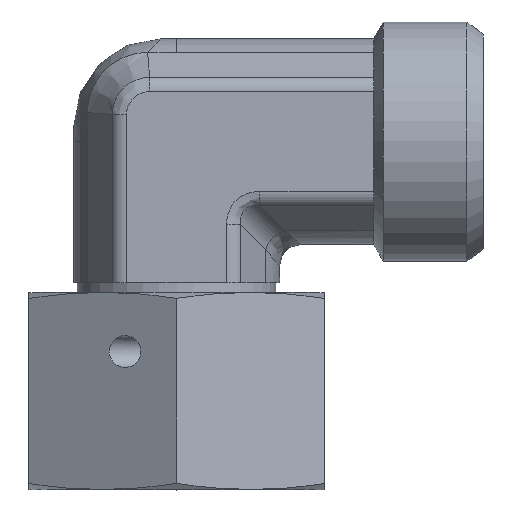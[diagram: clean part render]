
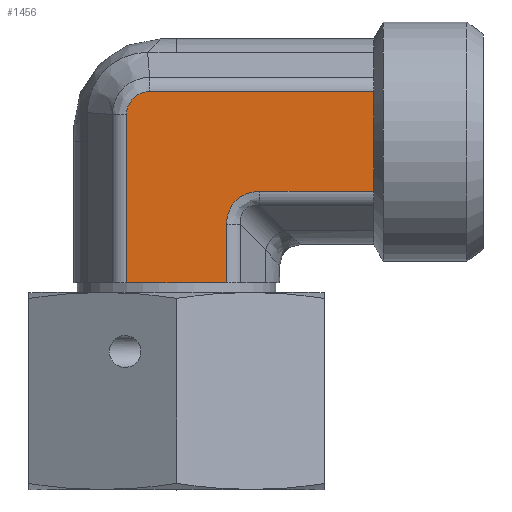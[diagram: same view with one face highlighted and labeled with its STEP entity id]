
A CAD part, top view. The second image highlights one B-rep face of the part: STEP entity #1456.
In plain terms, the highlighted planar face has unit normal (0, 0, 1) as drawn and (0, -1, 0) by its records, which use the part's own axes.
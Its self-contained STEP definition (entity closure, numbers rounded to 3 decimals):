
#83=ELLIPSE('',#1620,4.518,3.5);
#90=LINE('',#2354,#146);
#107=LINE('',#2412,#163);
#110=LINE('',#2423,#166);
#117=LINE('',#2548,#173);
#118=LINE('',#2623,#174);
#124=LINE('',#2689,#180);
#127=LINE('',#2740,#183);
#146=VECTOR('',#1852,9.122);
#163=VECTOR('',#1901,4.561);
#166=VECTOR('',#1914,4.561);
#173=VECTOR('',#1945,20.461);
#174=VECTOR('',#1950,15.361);
#180=VECTOR('',#1960,10.408);
#183=VECTOR('',#1973,5.308);
#213=PLANE('',#1622);
#366=FACE_OUTER_BOUND('',#502,.T.);
#502=EDGE_LOOP('',(#1178,#1179,#1180,#1181,#1182,#1183,#1184,#1185,#1186));
#573=B_SPLINE_CURVE_WITH_KNOTS('',3,(#2602,#2603,#2604,#2605,#2606,#2607,
#2608,#2609,#2610,#2611),.UNSPECIFIED.,.F.,.F.,(4,2,2,2,4),(-3.281,
-2.117,-1.066,-0.41,0.),
 .UNSPECIFIED.);
#699=VERTEX_POINT('',#2289);
#718=VERTEX_POINT('',#2351);
#719=VERTEX_POINT('',#2353);
#734=VERTEX_POINT('',#2410);
#737=VERTEX_POINT('',#2422);
#743=VERTEX_POINT('',#2546);
#745=VERTEX_POINT('',#2600);
#749=VERTEX_POINT('',#2688);
#751=VERTEX_POINT('',#2733);
#847=EDGE_CURVE('',#719,#718,#90,.T.);
#871=EDGE_CURVE('',#699,#734,#107,.T.);
#876=EDGE_CURVE('',#737,#699,#110,.T.);
#890=EDGE_CURVE('',#743,#734,#117,.T.);
#892=EDGE_CURVE('',#745,#743,#573,.T.);
#894=EDGE_CURVE('',#719,#745,#118,.T.);
#901=EDGE_CURVE('',#737,#749,#124,.T.);
#906=EDGE_CURVE('',#749,#751,#83,.T.);
#908=EDGE_CURVE('',#751,#718,#127,.T.);
#1178=ORIENTED_EDGE('',*,*,#847,.T.);
#1179=ORIENTED_EDGE('',*,*,#908,.F.);
#1180=ORIENTED_EDGE('',*,*,#906,.F.);
#1181=ORIENTED_EDGE('',*,*,#901,.F.);
#1182=ORIENTED_EDGE('',*,*,#876,.T.);
#1183=ORIENTED_EDGE('',*,*,#871,.T.);
#1184=ORIENTED_EDGE('',*,*,#890,.F.);
#1185=ORIENTED_EDGE('',*,*,#892,.F.);
#1186=ORIENTED_EDGE('',*,*,#894,.F.);
#1456=ADVANCED_FACE('',(#366),#213,.T.);
#1620=AXIS2_PLACEMENT_3D('',#2737,#1968,#1969);
#1622=AXIS2_PLACEMENT_3D('',#2741,#1974,#1975);
#1852=DIRECTION('',(0.,0.,1.));
#1901=DIRECTION('',(-1.,0.,0.));
#1914=DIRECTION('',(-1.,0.,0.));
#1945=DIRECTION('',(0.,0.,1.));
#1950=DIRECTION('',(-1.,0.,0.));
#1960=DIRECTION('',(0.,0.,-1.));
#1968=DIRECTION('center_axis',(0.,-1.,0.));
#1969=DIRECTION('ref_axis',(-0.707,0.,-0.707));
#1973=DIRECTION('',(1.,0.,0.));
#1974=DIRECTION('center_axis',(0.,-1.,0.));
#1975=DIRECTION('ref_axis',(0.,0.,-1.));
#2289=CARTESIAN_POINT('',(-4.5,-9.4,18.));
#2351=CARTESIAN_POINT('',(8.4,-9.4,4.561));
#2353=CARTESIAN_POINT('',(8.4,-9.4,-4.561));
#2354=CARTESIAN_POINT('',(8.4,-9.4,-4.561));
#2410=CARTESIAN_POINT('',(-9.061,-9.4,18.));
#2412=CARTESIAN_POINT('',(-4.5,-9.4,18.));
#2422=CARTESIAN_POINT('',(0.061,-9.4,18.));
#2423=CARTESIAN_POINT('',(0.061,-9.4,18.));
#2546=CARTESIAN_POINT('',(-9.061,-9.4,-2.461));
#2548=CARTESIAN_POINT('',(-9.061,-9.4,-2.461));
#2600=CARTESIAN_POINT('',(-6.961,-9.4,-4.561));
#2602=CARTESIAN_POINT('Ctrl Pts',(-6.961,-9.4,-4.561));
#2603=CARTESIAN_POINT('Ctrl Pts',(-7.349,-9.4,-4.561));
#2604=CARTESIAN_POINT('Ctrl Pts',(-7.737,-9.4,-4.451));
#2605=CARTESIAN_POINT('Ctrl Pts',(-8.37,-9.4,-4.058));
#2606=CARTESIAN_POINT('Ctrl Pts',(-8.62,-9.4,-3.796));
#2607=CARTESIAN_POINT('Ctrl Pts',(-8.901,-9.4,-3.296));
#2608=CARTESIAN_POINT('Ctrl Pts',(-8.977,-9.4,-3.088));
#2609=CARTESIAN_POINT('Ctrl Pts',(-9.048,-9.4,-2.736));
#2610=CARTESIAN_POINT('Ctrl Pts',(-9.061,-9.4,-2.598));
#2611=CARTESIAN_POINT('Ctrl Pts',(-9.061,-9.4,-2.461));
#2623=CARTESIAN_POINT('',(8.4,-9.4,-4.561));
#2688=CARTESIAN_POINT('',(0.061,-9.4,7.592));
#2689=CARTESIAN_POINT('',(0.061,-9.4,18.));
#2733=CARTESIAN_POINT('',(3.092,-9.4,4.561));
#2737=CARTESIAN_POINT('Origin',(4.103,-9.4,8.603));
#2740=CARTESIAN_POINT('',(3.092,-9.4,4.561));
#2741=CARTESIAN_POINT('Origin',(-4.5,-9.4,-3.175));
